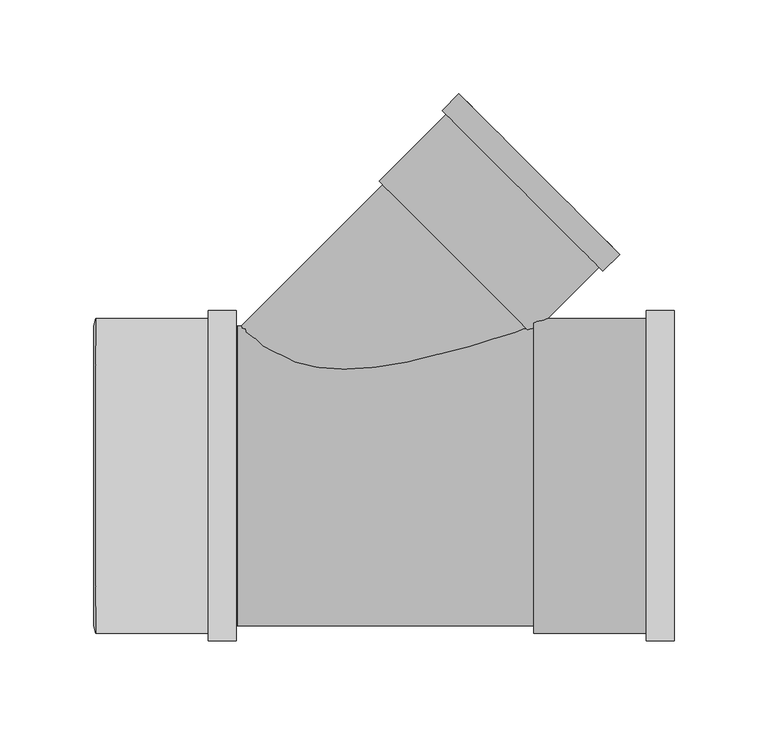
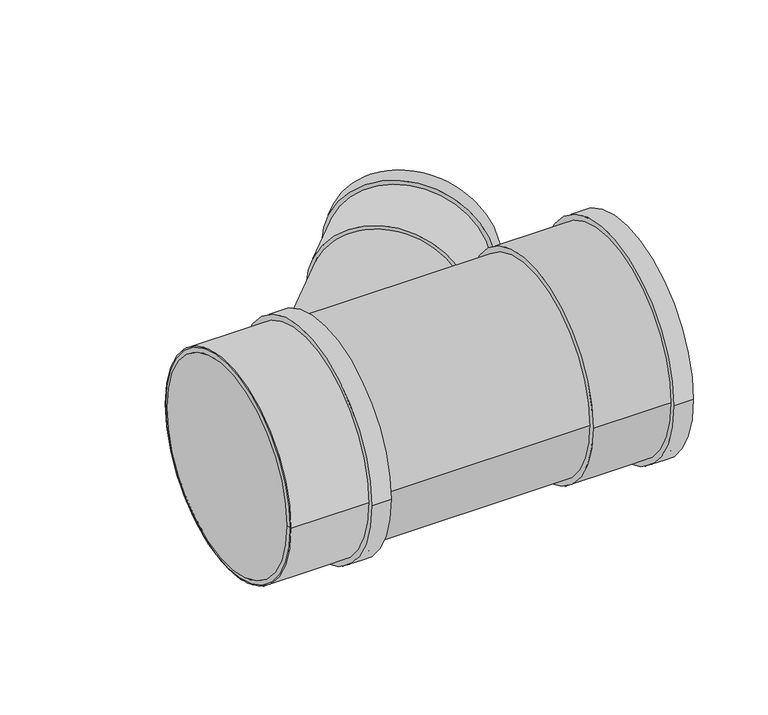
"""IFC4 building model written with IfcOpenShell, lengths in millimetres: pipe fitting geometry, Superdrain HTEA Branch : Superdrain HTEA Branch."""

from ifc_helpers import new_model, si_unit, point, frame, origin, origin_2d, place, context, project, spatial, polyline, circle_curve, trimmed, segment, composite_curve, outline, extrude, source, transform, mapped, element, save
from ifc_brep_helpers import plane_surface, cylinder_surface, revolved_surface, advanced_brep


def pipe_fitting_8110d8d6(model_context):
    return source(origin(), model_context, "Body", "SolidModel", [
        extrude(outline(composite_curve([segment(trimmed(circle_curve(origin_2d(), 84.0), [point((84.0, 0.0))], [point((-84.0, 0.0))], False, "CARTESIAN"), True, "CONTINUOUS"), segment(trimmed(circle_curve(origin_2d(), 84.0), [point((-84.0, 0.0))], [point((84.0, 0.0))], False, "CARTESIAN"), True, "CONTINUOUS")], self_intersect=False), holes=[composite_curve([segment(trimmed(circle_curve(origin_2d(), 80.0), [point((80.0, 0.0))], [point((-80.0, 0.0))], True, "CARTESIAN"), True, "CONTINUOUS"), segment(trimmed(circle_curve(origin_2d(), 80.0), [point((-80.0, 0.0))], [point((80.0, 0.0))], True, "CARTESIAN"), True, "CONTINUOUS")], self_intersect=False)]), frame((-75.6, 0.0, 0.0), z_axis=(1.0, 0.0, 0.0), x_axis=(0.0, 1.0, 0.0)), (0.0, 0.0, 1.0), 75.0),
        extrude(outline(composite_curve([segment(trimmed(circle_curve(origin_2d(), 88.2), [point((88.2, 0.0))], [point((-88.2, 0.0))], False, "CARTESIAN"), True, "CONTINUOUS"), segment(trimmed(circle_curve(origin_2d(), 88.2), [point((-88.2, 0.0))], [point((88.2, 0.0))], False, "CARTESIAN"), True, "CONTINUOUS")], self_intersect=False), holes=[composite_curve([segment(trimmed(circle_curve(origin_2d(), 80.0), [point((80.0, 0.0))], [point((-80.0, 0.0))], True, "CARTESIAN"), True, "CONTINUOUS"), segment(trimmed(circle_curve(origin_2d(), 80.0), [point((-80.0, 0.0))], [point((80.0, 0.0))], True, "CARTESIAN"), True, "CONTINUOUS")], self_intersect=False)]), frame((-15.6, 0.0, 0.0), z_axis=(1.0, 0.0, 0.0), x_axis=(0.0, 1.0, 0.0)), (0.0, 0.0, 1.0), 15.0),
        advanced_brep(
        [(-76.6, 80.0, 0.0), (-76.6, -80.0, 0.0), (-75.6, 84.0, 0.0), (-75.6, -84.0, 0.0)],
        [
            (0, 1, circle_curve(frame((-76.6, 0.0, 0.0), z_axis=(-1.0, 0.0, 0.0), x_axis=(0.0, 1.0, 0.0)), 80.0)),
            (1, 0, circle_curve(frame((-76.6, 0.0, 0.0), z_axis=(-1.0, 0.0, 0.0), x_axis=(0.0, -1.0, 0.0)), 80.0)),
            (2, 3, circle_curve(frame((-75.6, 0.0, 0.0), z_axis=(1.0, 0.0, 0.0), x_axis=(0.0, -1.0, 0.0)), 84.0)),
            (3, 2, circle_curve(frame((-75.6, 0.0, 0.0), z_axis=(1.0, 0.0, 0.0), x_axis=(0.0, 1.0, 0.0)), 84.0)),
            (3, 1),
            (0, 2),
        ],
        [
            plane_surface(frame((-76.6, 0.0, 0.0), z_axis=(-1.0, 0.0, 0.0), x_axis=(0.0, 0.0, -1.0))),
            plane_surface(frame((-75.6, 0.0, 0.0), z_axis=(1.0, 0.0, 0.0), x_axis=(0.0, 0.0, -1.0))),
            revolved_surface(polyline([(-76.6, 80.0, 0.0), (-75.6, 84.0, 0.0)]), (-96.6, 0.0, 0.0), (1.0, 0.0, 0.0)),
            revolved_surface(polyline([(-76.6, -80.0, 0.0), (-75.6, -84.0, 0.0)]), (-96.6, 0.0, 0.0), (1.0, 0.0, 0.0)),
        ],
        [
            (0, [[1, 2]]),
            (1, [[3, 4]]),
            (2, [[-4, 5, -1, 6]]),
            (3, [[-3, -6, -2, -5]]),
        ],
    ),
        advanced_brep(
        [(157.9, -84.0, 0.0), (157.9, 84.0, 0.0), (232.9, -84.0, 0.0), (232.9, 84.0, 0.0), (232.9, -80.0, 0.0), (232.9, 80.0, 0.0), (158.9, -80.0, 0.0), (158.9, 80.0, 0.0)],
        [
            (0, 1, circle_curve(frame((157.9, 0.0, 0.0), z_axis=(-1.0, 0.0, 0.0), x_axis=(0.0, 1.0, 0.0)), 84.0)),
            (1, 0, circle_curve(frame((157.9, 0.0, 0.0), z_axis=(-1.0, 0.0, 0.0), x_axis=(0.0, 1.0, 0.0)), 84.0)),
            (2, 3, circle_curve(frame((232.9, 0.0, 0.0), z_axis=(1.0, 0.0, 0.0), x_axis=(0.0, 1.0, 0.0)), 84.0)),
            (3, 2, circle_curve(frame((232.9, 0.0, 0.0), z_axis=(1.0, 0.0, 0.0), x_axis=(0.0, 1.0, 0.0)), 84.0)),
            (4, 5, circle_curve(frame((232.9, 0.0, 0.0), z_axis=(-1.0, 0.0, 0.0), x_axis=(0.0, 1.0, 0.0)), 80.0)),
            (5, 4, circle_curve(frame((232.9, 0.0, 0.0), z_axis=(-1.0, 0.0, 0.0), x_axis=(0.0, 1.0, 0.0)), 80.0)),
            (0, 2),
            (3, 1),
            (6, 7, circle_curve(frame((158.9, 0.0, 0.0), z_axis=(-1.0, 0.0, 0.0), x_axis=(0.0, 1.0, 0.0)), 80.0)),
            (7, 5),
            (4, 6),
            (7, 6, circle_curve(frame((158.9, 0.0, 0.0), z_axis=(-1.0, 0.0, 0.0), x_axis=(0.0, 1.0, 0.0)), 80.0)),
        ],
        [
            plane_surface(frame((157.9, 0.0, 0.0), z_axis=(-1.0, 0.0, 0.0), x_axis=(0.0, 0.0, 1.0))),
            plane_surface(frame((232.9, 0.0, 0.0), z_axis=(1.0, 0.0, 0.0), x_axis=(0.0, 0.0, 1.0))),
            cylinder_surface(frame((157.9, 0.0, 0.0), z_axis=(-1.0, 0.0, 0.0), x_axis=(0.0, 1.0, 0.0)), 84.0),
            revolved_surface(polyline([(158.9, 80.0, 0.0), (232.9, 80.0, 0.0)]), (158.9, 0.0, 0.0), (-1.0, 0.0, 0.0)),
            plane_surface(frame((158.9, 0.0, 0.0), z_axis=(1.0, 0.0, 0.0), x_axis=(0.0, 0.0, 1.0))),
        ],
        [
            (0, [[1, 2]]),
            (1, [[3, 4], [5, 6]]),
            (2, [[-1, 7, -4, 8]]),
            (2, [[-2, -8, -3, -7]]),
            (3, [[9, 10, -5, 11]]),
            (3, [[12, -11, -6, -10]]),
            (4, [[-12, -9]]),
        ],
    ),
        extrude(outline(composite_curve([segment(trimmed(circle_curve(origin_2d(), 88.2), [point((88.2, 0.0))], [point((-88.2, 0.0))], False, "CARTESIAN"), True, "CONTINUOUS"), segment(trimmed(circle_curve(origin_2d(), 88.2), [point((-88.2, 0.0))], [point((88.2, 0.0))], False, "CARTESIAN"), True, "CONTINUOUS")], self_intersect=False), holes=[composite_curve([segment(trimmed(circle_curve(origin_2d(), 80.0), [point((80.0, 0.0))], [point((-80.0, 0.0))], True, "CARTESIAN"), True, "CONTINUOUS"), segment(trimmed(circle_curve(origin_2d(), 80.0), [point((-80.0, 0.0))], [point((80.0, 0.0))], True, "CARTESIAN"), True, "CONTINUOUS")], self_intersect=False)]), frame((217.9, 0.0, 0.0), z_axis=(1.0, 0.0, 0.0), x_axis=(0.0, 1.0, 0.0)), (0.0, 0.0, 1.0), 15.0),
        extrude(outline(composite_curve([segment(trimmed(circle_curve(origin_2d(), 55.0), [point((0.0, 55.0))], [point((0.0, -55.0))], False, "CARTESIAN"), True, "CONTINUOUS"), segment(trimmed(circle_curve(origin_2d(), 55.0), [point((0.0, -55.0))], [point((0.0, 55.0))], False, "CARTESIAN"), True, "CONTINUOUS")], self_intersect=False)), frame((0.0, 0.0, 0.0), z_axis=(0.707106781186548, 0.7071067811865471, 0.0), x_axis=(0.0, 0.0, 1.0)), (0.0, 0.0, 1.0), 164.6),
        extrude(outline(composite_curve([segment(trimmed(circle_curve(origin_2d(), 80.0), [point((80.0, 0.0))], [point((-80.0, 0.0))], False, "CARTESIAN"), True, "CONTINUOUS"), segment(trimmed(circle_curve(origin_2d(), 80.0), [point((-80.0, 0.0))], [point((80.0, 0.0))], False, "CARTESIAN"), True, "CONTINUOUS")], self_intersect=False)), frame((-75.6, 0.0, 0.0), z_axis=(1.0, 0.0, 0.0), x_axis=(0.0, 1.0, 0.0)), (0.0, 0.0, 1.0), 75.6),
        extrude(outline(composite_curve([segment(trimmed(circle_curve(origin_2d(), 80.0), [point((-80.0, 0.0))], [point((80.0, 0.0))], False, "CARTESIAN"), True, "CONTINUOUS"), segment(trimmed(circle_curve(origin_2d(), 80.0), [point((80.0, 0.0))], [point((-80.0, 0.0))], False, "CARTESIAN"), True, "CONTINUOUS")], self_intersect=False)), frame((0.0, 0.0, 0.0), z_axis=(1.0, 0.0, 0.0), x_axis=(0.0, 1.0, 0.0)), (0.0, 0.0, 1.0), 157.9),
        extrude(outline(composite_curve([segment(trimmed(circle_curve(origin_2d(), 60.6375), [point((0.0, 60.6375))], [point((0.0, -60.6375))], False, "CARTESIAN"), True, "CONTINUOUS"), segment(trimmed(circle_curve(origin_2d(), 60.6375), [point((0.0, -60.6375))], [point((0.0, 60.6375))], False, "CARTESIAN"), True, "CONTINUOUS")], self_intersect=False), holes=[composite_curve([segment(trimmed(circle_curve(origin_2d(), 55.0), [point((0.0, 55.0))], [point((0.0, -55.0))], True, "CARTESIAN"), True, "CONTINUOUS"), segment(trimmed(circle_curve(origin_2d(), 55.0), [point((0.0, -55.0))], [point((0.0, 55.0))], True, "CARTESIAN"), True, "CONTINUOUS")], self_intersect=False)]), frame((152.027958, 152.027958, 0.0), z_axis=(0.7071067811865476, 0.7071067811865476, 0.0), x_axis=(0.0, 0.0, 1.0)), (0.0, 0.0, 1.0), 12.6),
        extrude(outline(composite_curve([segment(trimmed(circle_curve(origin_2d(), 57.75), [point((0.0, 57.75))], [point((0.0, -57.75))], False, "CARTESIAN"), True, "CONTINUOUS"), segment(trimmed(circle_curve(origin_2d(), 57.75), [point((0.0, -57.75))], [point((0.0, 57.75))], False, "CARTESIAN"), True, "CONTINUOUS")], self_intersect=False), holes=[composite_curve([segment(trimmed(circle_curve(origin_2d(), 55.0), [point((0.0, 55.0))], [point((0.0, -55.0))], True, "CARTESIAN"), True, "CONTINUOUS"), segment(trimmed(circle_curve(origin_2d(), 55.0), [point((0.0, -55.0))], [point((0.0, 55.0))], True, "CARTESIAN"), True, "CONTINUOUS")], self_intersect=False)]), frame((116.3897762, 116.3897762, 0.0), z_axis=(0.7071067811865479, 0.7071067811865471, 0.0), x_axis=(0.0, 0.0, 1.0)), (0.0, 0.0, 1.0), 63.0),
    ])


if __name__ == "__main__":
    model = new_model("IFC4")
    model_context = context("Model", 3, world=origin())
    ifc_project = project(units=[si_unit("LENGTHUNIT", "METRE", prefix="MILLI")], contexts=[model_context])
    site = spatial("IfcSite", under=ifc_project)
    building = spatial("IfcBuilding", under=site)
    placement = place(None, origin())
    pipe_fitting_shape = pipe_fitting_8110d8d6(model_context)
    element("IfcPipeFitting", 1, ObjectType="Superdrain HTEA Branch : Superdrain HTEA Branch", at=placement, inside=building, context=model_context, shape_type="MappedRepresentation", body=[
        mapped(pipe_fitting_shape, transform((0.0, 0.0, 0.0), x_axis=(1.0, 0.0, 0.0), y_axis=(0.0, 1.0, 0.0), z_axis=(0.0, 0.0, 1.0))),
    ])
    save(model, "model.ifc")
